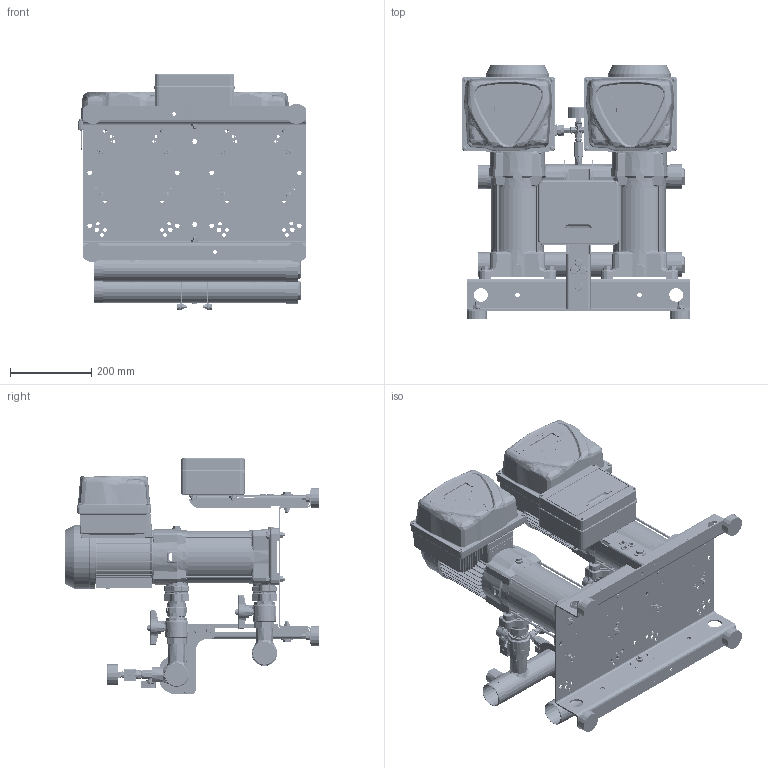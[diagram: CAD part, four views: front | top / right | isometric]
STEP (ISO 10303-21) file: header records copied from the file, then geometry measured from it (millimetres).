
FILE_DESCRIPTION((''),'2;1');
FILE_NAME('2GPE_CVM_B20_ESPM_REV4_ASM','2024-12-03T11:49:40',('Utente'),('"Ebara Pumps Europe S.p.A"'),'CREO PARAMETRIC BY PTC INC, 2022124','CREO PARAMETRIC BY PTC INC, 2022124','');
FILE_SCHEMA(('AUTOMOTIVE_DESIGN { 1 0 10303 214 1 1 1 1 }'));
Products named in the file (46): 62508_275562936; CALOTTA_F_A304_DN50_369800820; VAL_INT_MF_OTN_CIM301-14_DN32; VAL_INT_M-F_OTN_CIM301_DN32_ASM; EP_CVM_B-20_R; EP_CVM_B-20_R_ASM; ADATTATORE_E-SPD_MEC80-90-100; E-SPD_ADATTATORE_MEC80-90-100_ASM; BACK_E-SPD_PLUS_2200-4000; COVER_E-SPD_PLUS_2200-4000; COM_E-SPDM_MEC80-90-100_VERT_ASM; VAL-NR-MF-OTN-CIM32-DN32; VALV_NR_MF_CIM32_DN32_ASM; COM_E-SPDM_MEC71_VERT_ASM; RONDEL-P_FE_ZN_UNI6592_M10; DADO_AUTOAGG_M10_ESAG; VITI_TE_ISO4017_M10_L40; 62513_275562944; VAL_INT_MF_OTN_CIM012_DN8; NIPPLO_OTG_8_380000861; CROCE_OTG_DN8_380000881; TRASD_16BAR_460500024; MAN_POS_D50_10BAR_361600003; BASE_2GP_I300-B300_DNRV; MONTANTE_H300_271472898; PIEDINO_CIL_369650010; DADI_NORM_ISO4032_FE_ZN_M10; RONDEL-P_ZN_UNI6593_M10X30X2-5; VITI_TE_ISO4017_M10_L45; TRAVERSO_MONT_L200_271472882; RONDEL-P_FE_ZN_UNI6593_M6X18X2; RONDEL-P_FE_ZN_UNI6592_M6; VITI_TE_ISO4017_M6_L20; DADI_NORM_ISO4032_FE_ZN_M6; DNRV_2P_I300-B300_H300-Q195X150_ASM; QUADRO_PROT_2P_M_ELENTEK; PG_PVC_D10-5_380000891; TAPPO-SALVAFIL_D31; 271473006; 271472998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
Assembly tree (136 placements, depth 3):
  2GPE_CVM_B20_ESPM_REV4_ASM
    62508_275562936
    CALOTTA_F_A304_DN50_369800820  x2
    VAL_INT_M-F_OTN_CIM301_DN32_ASM  x4
      VAL_INT_MF_OTN_CIM301-14_DN32
    EP_CVM_B-20_R_ASM  x2
      EP_CVM_B-20_R
    E-SPD_ADATTATORE_MEC80-90-100_ASM  x2
      ADATTATORE_E-SPD_MEC80-90-100
    COM_E-SPDM_MEC80-90-100_VERT_ASM
      BACK_E-SPD_PLUS_2200-4000
      COVER_E-SPD_PLUS_2200-4000
    VALV_NR_MF_CIM32_DN32_ASM  x2
      VAL-NR-MF-OTN-CIM32-DN32
    COM_E-SPDM_MEC71_VERT_ASM
      BACK_E-SPD_PLUS_2200-4000
      COVER_E-SPD_PLUS_2200-4000
    RONDEL-P_FE_ZN_UNI6592_M10  x8
    DADO_AUTOAGG_M10_ESAG  x9
    VITI_TE_ISO4017_M10_L40  x8
    62513_275562944
    VAL_INT_MF_OTN_CIM012_DN8
    NIPPLO_OTG_8_380000861
    CROCE_OTG_DN8_380000881
    TRASD_16BAR_460500024  x2
    MAN_POS_D50_10BAR_361600003
    DNRV_2P_I300-B300_H300-Q195X150_ASM
      BASE_2GP_I300-B300_DNRV
      MONTANTE_H300_271472898
      PIEDINO_CIL_369650010  x4
      RONDEL-P_FE_ZN_UNI6592_M10  x4
      DADI_NORM_ISO4032_FE_ZN_M10  x4
      RONDEL-P_ZN_UNI6593_M10X30X2-5
      VITI_TE_ISO4017_M10_L45
      TRAVERSO_MONT_L200_271472882  x2
      RONDEL-P_FE_ZN_UNI6593_M6X18X2  x8
      RONDEL-P_FE_ZN_UNI6592_M6  x4
      VITI_TE_ISO4017_M6_L20  x4
      DADI_NORM_ISO4032_FE_ZN_M6  x4
      DADO_AUTOAGG_M10_ESAG
    QUADRO_PROT_2P_M_ELENTEK
    PG_PVC_D10-5_380000891  x3
    TAPPO-SALVAFIL_D31  x2
    271473006
    271472998  x2
    72578_271473004  x2
    RONDEL-P_ZN_UNI6593_M10X30X2-5
    VITI_TE_ISO4017_M10_L45
    RONDEL-P_FE_ZN_UNI6592_M8  x12
    VITI_TE_ISO4017_M8_L18  x8
    DADI_NORM_ISO4032_FE_ZN_M8  x4
    DADO_AUTOAGG_M8_ESAG  x4
Bounding box: 562.5 x 626.1 x 581.25 mm (x, y, z)
Volume: 4113341.3 mm3; surface area: 4623406.9 mm2
Topology: 296 solids, 1277 shells, 32656 faces, 85179 edges, 52556 vertices
Faces by surface type: plane 15709, cylinder 8029, bspline 2537, sphere 2093, cone 1521, extrusion 1426, torus 1341
Entity records: 735633 total; most frequent: CARTESIAN_POINT 286824, ORIENTED_EDGE 74540, DIRECTION 72184, EDGE_CURVE 38604, VERTEX_POINT 24229, AXIS2_PLACEMENT_3D 24174, VECTOR 23702, LINE 23072
